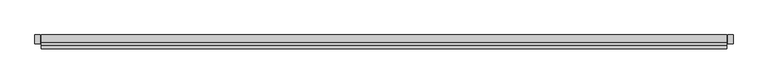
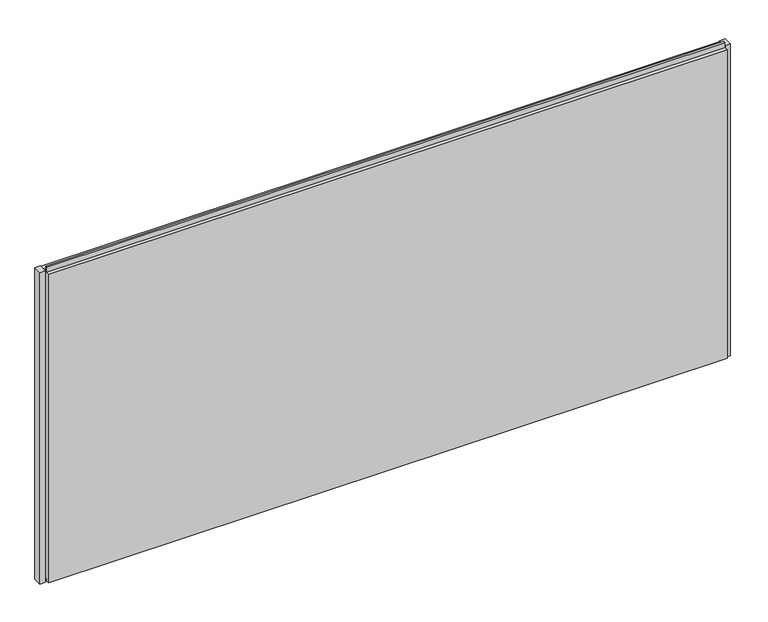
"""IFC4 building model written with IfcOpenShell, lengths in millimetres: plate geometry, Trimo_Qbiss Screen_Normal Panel-HORIZONTAL : HR - FB-F."""

from ifc_helpers import new_model, si_unit, frame, origin, place, context, project, spatial, polyline, outline, extrude, source, transform, mapped, element, save


def plate_3ee6bba1(model_context):
    return source(origin(), model_context, "Body", "SweptSolid", [
        extrude(outline(polyline([(-1236.0, 67.8978162), (-1255.0, 67.8978162), (-1255.0, 100.0), (-1236.0, 100.0), (-1236.0, 67.8978162)])), frame((0.0, 0.0, -1.0), z_axis=(0.0, 0.0, 1.0), x_axis=(1.0, 0.0, 0.0)), (0.0, 0.0, 1.0), 1200.0),
        extrude(outline(polyline([(1259.5, 67.8978162), (1240.5, 67.8978162), (1240.5, 100.0), (1259.5, 100.0), (1259.5, 67.8978162)])), frame((0.0, 0.0, -1.0), z_axis=(0.0, 0.0, 1.0), x_axis=(1.0, 0.0, 0.0)), (0.0, 0.0, 1.0), 1200.0),
        extrude(outline(polyline([(71.0, 1196.0), (100.0, 1196.0), (100.0, 0.0), (72.0, 0.0), (72.0, 15.5), (62.0, 15.5), (62.0, 7.0), (50.0, 7.0), (50.0, 1196.0), (63.0, 1196.0), (63.0, 1214.5), (71.0, 1214.5), (71.0, 1196.0)])), frame((-1233.0, 0.0, 0.0), z_axis=(1.0, 0.0, 0.0), x_axis=(0.0, 1.0, 0.0)), (0.0, 0.0, 1.0), 2470.5),
    ])


if __name__ == "__main__":
    model = new_model("IFC4")
    model_context = context("Model", 3, world=origin())
    ifc_project = project(units=[si_unit("LENGTHUNIT", "METRE", prefix="MILLI")], contexts=[model_context])
    site = spatial("IfcSite", under=ifc_project)
    building = spatial("IfcBuilding", under=site)
    placement = place(None, origin())
    plate_shape = plate_3ee6bba1(model_context)
    element("IfcPlate", 1, ObjectType="Trimo_Qbiss Screen_Normal Panel-HORIZONTAL : HR - FB-F", at=placement, inside=building, context=model_context, shape_type="MappedRepresentation", body=[
        mapped(plate_shape, transform((0.0, 0.0, 0.0), x_axis=(1.0, 0.0, 0.0), y_axis=(0.0, 1.0, 0.0), z_axis=(0.0, 0.0, 1.0))),
    ])
    save(model, "model.ifc")
